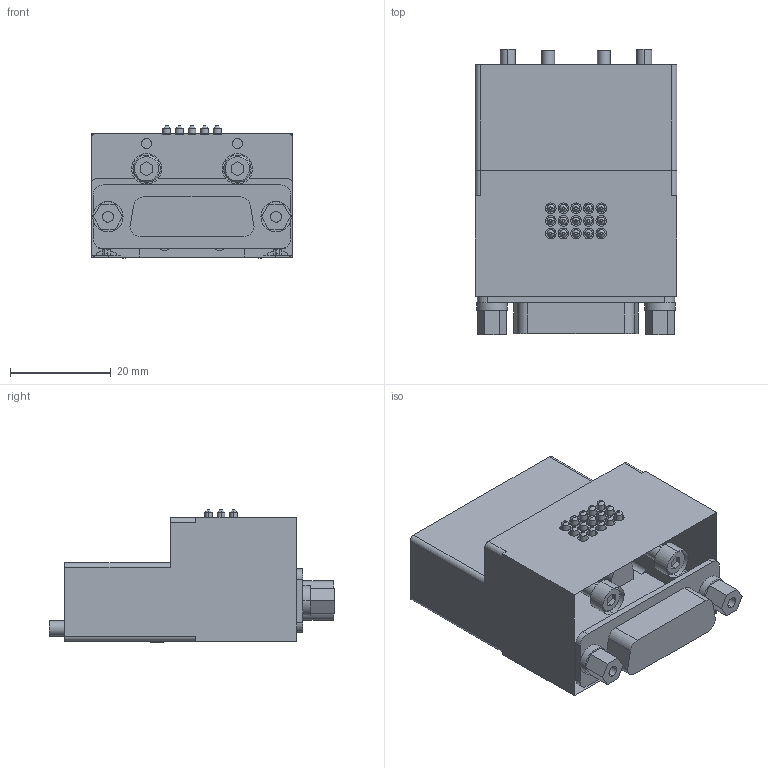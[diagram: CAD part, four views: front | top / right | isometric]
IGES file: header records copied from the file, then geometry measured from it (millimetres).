
Start section: 3D InterOp IGES (v. 2022 1.0.0), Spatial Corp. Copyright (c) 1999-2020.
Global section: file name: KHG-12HS-D315C_ver1.igs; native system: Spatial Corp.; preprocessor: 3D InterOp GENERIC/IGES 3.0; author: Noname; organization: Noname; date: 20260518.094605; units: millimetre
Bounding box: 40 x 56.5 x 26.2 mm (x, y, z)
Surface area: 10731 mm2 (no closed solid volume)
Topology: 0 solids, 0 shells, 403 faces, 1840 edges, 1840 vertices
Faces by surface type: revolution 210, extrusion 193
